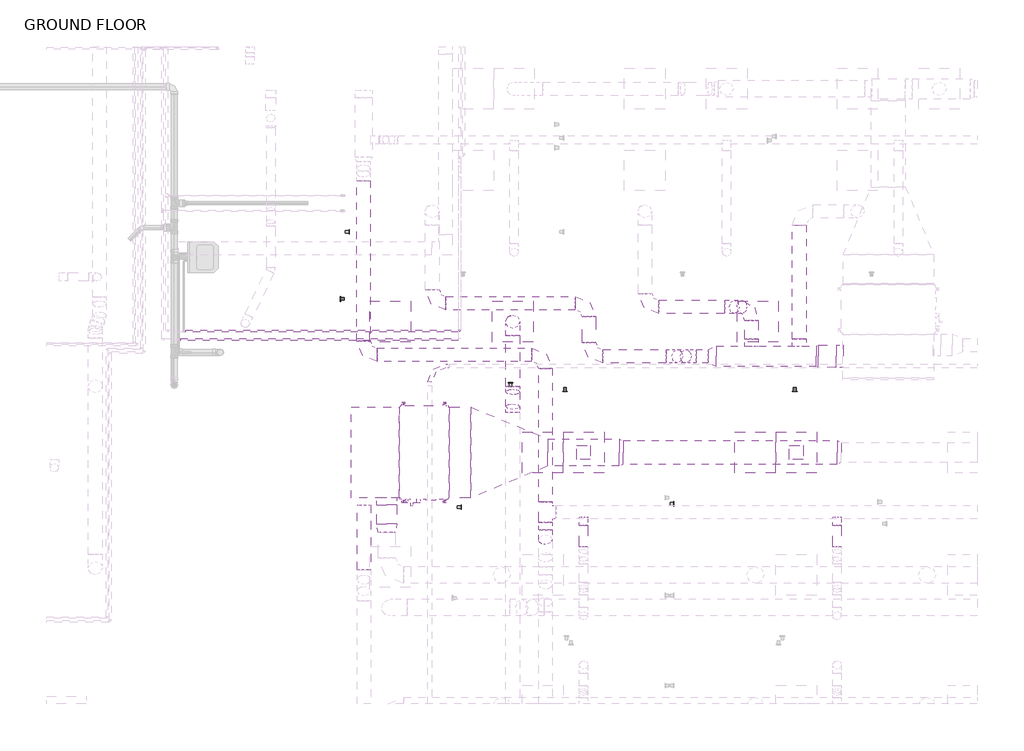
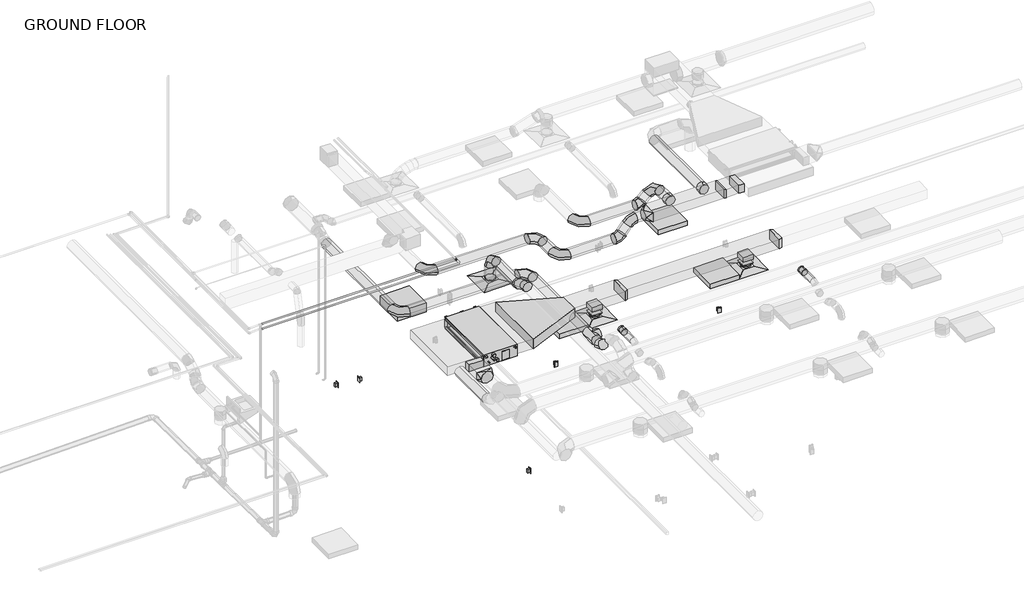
# One storey, part 15 of 22: 31 duct fittings, 28 duct segments, 4 light fixtures, 4 proxies, 3 air terminals, 3 switching devices, 2 pipe segments, 1 cable carrier fitting, 2 other elements.
"""IFC4 building model written with IfcOpenShell, lengths in millimetres."""

from ifc_helpers import new_model, si_unit, point, frame, frame_2d, origin, place, context, project, spatial, polyline, circle_curve, trimmed, segment, composite_curve, outline, extrude, transform, mapped, element, save
from components import air_terminal_e9020785, mechanical_equipment_d478180c, duplex_receptacle_countertop_10251bba, conduit_elbow_plain_end_pvc_standard_9a413171, rectangular_takeoff_standard_68f80ab3, rectangular_takeoff_standard_d07ea574, rectangular_takeoff_standard_fde45e03, rectangular_transition_angle_45_degree_0521c937, rectangular_transition_angle_45_degree_85914557, rectangular_transition_angle_45_degree_791ae252, rectangular_transition_angle_45_degree_a1440fe9, rectangular_to_round_transition_angle_45_degree_5a025447, rectangular_to_round_transition_angle_45_degree_f8b25ec9, rectangular_to_round_transition_angle_45_degree_789dc1ad, round_elbow_1_d_fe38274b, round_elbow_1_d_20ab3410, round_elbow_1_d_a253342a, round_elbow_1_d_ab3aa7ba, round_takeoff_standard_d3b0d0f9, round_takeoff_standard_272bb003, round_tee_standard_4a79b710, telephone_outlet_data_plain_18c24199, troffer_corner_insert_2x2_3_lamp_emergency_29e3a813, troffer_corner_insert_2x2_3lamp_e67c7f8f, elbow_generic_standard_c06ac706

model = new_model("IFC4")

# Units and contexts
model_context = context("Model", 3, world=origin())
ifc_project = project(units=[si_unit("LENGTHUNIT", "METRE", prefix="MILLI")], contexts=[model_context])

# Site, building, storey
site = spatial("IfcSite", under=ifc_project)
building = spatial("IfcBuilding", under=site)
storey = spatial("IfcBuildingStorey", under=building, Name="GROUND FLOOR", Elevation=30480.0)

# Air terminals
placement = place(None, origin())
air_terminal_shape = air_terminal_e9020785(model_context)
element("IfcAirTerminal", 1, ObjectType="Supply Diffuser - Rectangular Face Round Neck - Hosted : 24\"x24\" Face 8\" Neck - Hosted", at=placement, inside=storey, context=model_context, shape_type="MappedRepresentation", body=[
    mapped(air_terminal_shape, transform((-799.1454607, 1382.1195005, 33223.2), x_axis=(0.0, -1.0, 0.0), y_axis=(-1.0, 0.0, 0.0), z_axis=(0.0, 0.0, -1.0))),
])
element("IfcAirTerminal", 2, ObjectType="Supply Diffuser - Rectangular Face Round Neck - Hosted : 24\"x24\" Face 8\" Neck - Hosted", at=placement, inside=storey, context=model_context, shape_type="MappedRepresentation", body=[
    mapped(air_terminal_shape, transform((-3970.9704607, 1382.1195005, 33223.2), x_axis=(0.0, -1.0, 0.0), y_axis=(-1.0, 0.0, 0.0), z_axis=(0.0, 0.0, -1.0))),
])
element("IfcAirTerminal", 3, ObjectType="Supply Diffuser - Rectangular Face Round Neck - Hosted : 24\"x24\" Face 8\" Neck - Hosted", at=placement, inside=storey, context=model_context, shape_type="MappedRepresentation", body=[
    mapped(air_terminal_shape, transform((-5028.2454607, 3334.7445005, 33223.2), x_axis=(0.0, -1.0, 0.0), y_axis=(-1.0, 0.0, 0.0), z_axis=(0.0, 0.0, -1.0))),
])

# Proxies
mechanical_equipment_shape = mechanical_equipment_d478180c(model_context)
element("IfcBuildingElementProxy", 4, Name="PEFY-P-NMAU-E_Medium_Static_Ducted : PEFY-P36NMAU-E", ObjectType="PEFY-P-NMAU-E_Medium_Static_Ducted : PEFY-P36NMAU-E", at=placement, inside=storey, context=model_context, shape_type="MappedRepresentation", body=[
    mapped(mechanical_equipment_shape, transform((-6407.5018914, 1372.1072576, 33458.15), x_axis=(0.0, -1.0, 0.0), y_axis=(1.0, 0.0, 0.0), z_axis=(0.0, 0.0, 1.0))),
])
duplex_receptacle_countertop_shape = duplex_receptacle_countertop_10251bba(model_context)
element("IfcBuildingElementProxy", 5, Name="Duplex Receptacle : Countertop", ObjectType="Duplex Receptacle : Countertop", at=placement, inside=storey, context=model_context, shape_type="MappedRepresentation", body=[
    mapped(duplex_receptacle_countertop_shape, transform((-7469.8204607, 4677.7695005, 30937.2), x_axis=(0.0, 1.0, 0.0), y_axis=(0.0, 0.0, 1.0), z_axis=(1.0, 0.0, 0.0))),
])
element("IfcBuildingElementProxy", 6, Name="Duplex Receptacle : Standard", ObjectType="Duplex Receptacle : Standard", at=placement, inside=storey, context=model_context, shape_type="MappedRepresentation", body=[
    mapped(duplex_receptacle_countertop_shape, transform((-5799.7704607, 567.377149, 30937.2), x_axis=(0.0, 1.0, 0.0), y_axis=(0.0, 0.0, 1.0), z_axis=(1.0, 0.0, 0.0))),
])
element("IfcBuildingElementProxy", 7, Name="Duplex Receptacle : Standard", ObjectType="Duplex Receptacle : Standard", at=placement, inside=storey, context=model_context, shape_type="MappedRepresentation", body=[
    mapped(duplex_receptacle_countertop_shape, transform((-5062.4392218, 2420.3445005, 30937.2), x_axis=(-1.0, 0.0, 0.0), y_axis=(0.0, 0.0, 1.0), z_axis=(0.0, 1.0, 0.0))),
])

# Cable carrier fitting
conduit_elbow_plain_end_pvc_standard_shape = conduit_elbow_plain_end_pvc_standard_9a413171(model_context)
element("IfcCableCarrierFitting", 8, ObjectType="Conduit Elbow - Plain End - PVC : Standard", at=placement, inside=storey, context=model_context, shape_type="MappedRepresentation", body=[
    mapped(conduit_elbow_plain_end_pvc_standard_shape, transform((-6265.5970534, 2674.7111662, 33223.2), x_axis=(-1.0, 0.0, 0.0), y_axis=(0.0, -1.0, 0.0), z_axis=(0.0, 0.0, 1.0))),
])

# Duct fittings
rectangular_takeoff_standard_shape = rectangular_takeoff_standard_68f80ab3(model_context)
element("IfcDuctFitting", 9, ObjectType="Rectangular Takeoff : Standard", at=placement, inside=storey, context=model_context, shape_type="MappedRepresentation", body=[
    mapped(rectangular_takeoff_standard_shape, transform((-101.8689282, 2818.301218, 33947.89375), x_axis=(-1.0, 0.0, 0.0), y_axis=(0.0, 1.0, 0.0), z_axis=(0.0, 0.0, -1.0))),
])
rectangular_takeoff_standard_2_shape = rectangular_takeoff_standard_d07ea574(model_context)
element("IfcDuctFitting", 10, ObjectType="Rectangular Takeoff : Standard", at=placement, inside=storey, context=model_context, shape_type="MappedRepresentation", body=[
    mapped(rectangular_takeoff_standard_2_shape, transform((-799.1454607, 1382.1195005, 33502.6), x_axis=(0.0, 0.0, -1.0), y_axis=(1.0, 0.0, 0.0), z_axis=(0.0, -1.0, 0.0))),
])
element("IfcDuctFitting", 11, ObjectType="Rectangular Takeoff : Standard", at=placement, inside=storey, context=model_context, shape_type="MappedRepresentation", body=[
    mapped(rectangular_takeoff_standard_2_shape, transform((-3970.9704607, 1382.1195005, 33502.6), x_axis=(0.0, 0.0, -1.0), y_axis=(1.0, 0.0, 0.0), z_axis=(0.0, -1.0, 0.0))),
])
rectangular_takeoff_standard_3_shape = rectangular_takeoff_standard_fde45e03(model_context)
element("IfcDuctFitting", 12, ObjectType="Rectangular Takeoff : Standard", at=placement, inside=storey, context=model_context, shape_type="MappedRepresentation", body=[
    mapped(rectangular_takeoff_standard_3_shape, transform((-6907.4143044, 704.2570005, 33617.69375), x_axis=(0.0, -1.0, 0.0), y_axis=(-1.0, 0.0, 0.0), z_axis=(0.0, 0.0, -1.0))),
])
rectangular_transition_angle_45_degree_shape = rectangular_transition_angle_45_degree_0521c937(model_context)
element("IfcDuctFitting", 13, ObjectType="Rectangular Transition - Angle : 45 Degree", at=placement, inside=storey, context=model_context, shape_type="MappedRepresentation", body=[
    mapped(rectangular_transition_angle_45_degree_shape, transform((-471.6175144, 2818.301218, 33947.89375), x_axis=(-1.0, 0.0, 0.0), y_axis=(0.0, -1.0, 0.0), z_axis=(0.0, 0.0, 1.0))),
])
rectangular_transition_angle_45_degree_2_shape = rectangular_transition_angle_45_degree_85914557(model_context)
element("IfcDuctFitting", 14, ObjectType="Rectangular Transition - Angle : 45 Degree", at=placement, inside=storey, context=model_context, shape_type="MappedRepresentation", body=[
    mapped(rectangular_transition_angle_45_degree_2_shape, transform((-5651.3200089, 1382.1195005, 33604.2), x_axis=(1.0, 0.0, 0.0), y_axis=(0.0, 1.0, 0.0), z_axis=(0.0, 0.0, 1.0))),
])
rectangular_transition_angle_45_degree_3_shape = rectangular_transition_angle_45_degree_791ae252(model_context)
element("IfcDuctFitting", 15, ObjectType="Rectangular Transition - Angle : 45 Degree", at=placement, inside=storey, context=model_context, shape_type="MappedRepresentation", body=[
    mapped(rectangular_transition_angle_45_degree_3_shape, transform((-3441.5200089, 1382.1195005, 33604.2), x_axis=(1.0, 0.0, 0.0), y_axis=(0.0, 1.0, 0.0), z_axis=(0.0, 0.0, 1.0))),
])
rectangular_transition_angle_45_degree_4_shape = rectangular_transition_angle_45_degree_a1440fe9(model_context)
element("IfcDuctFitting", 16, ObjectType="Rectangular Transition - Angle : 45 Degree", at=placement, inside=storey, context=model_context, shape_type="MappedRepresentation", body=[
    mapped(rectangular_transition_angle_45_degree_4_shape, transform((-189.5454607, 1382.1195005, 33604.2), x_axis=(1.0, 0.0, 0.0), y_axis=(0.0, 1.0, 0.0), z_axis=(0.0, 0.0, 1.0))),
])
rectangular_to_round_transition_angle_45_degree_shape = rectangular_to_round_transition_angle_45_degree_5a025447(model_context)
element("IfcDuctFitting", 17, ObjectType="Rectangular to Round Transition - Angle : 45 Degree", at=placement, inside=storey, context=model_context, shape_type="MappedRepresentation", body=[
    mapped(rectangular_to_round_transition_angle_45_degree_shape, transform((-799.1454607, 1382.1195005, 33327.975), x_axis=(0.0, 0.0, -1.0), y_axis=(1.0, 0.0, 0.0), z_axis=(0.0, -1.0, 0.0))),
])
element("IfcDuctFitting", 18, ObjectType="Rectangular to Round Transition - Angle : 45 Degree", at=placement, inside=storey, context=model_context, shape_type="MappedRepresentation", body=[
    mapped(rectangular_to_round_transition_angle_45_degree_shape, transform((-3970.9704607, 1382.1195005, 33327.975), x_axis=(0.0, 0.0, -1.0), y_axis=(1.0, 0.0, 0.0), z_axis=(0.0, -1.0, 0.0))),
])
rectangular_to_round_transition_angle_45_degree_2_shape = rectangular_to_round_transition_angle_45_degree_f8b25ec9(model_context)
element("IfcDuctFitting", 19, ObjectType="Rectangular to Round Transition - Angle : 45 Degree", at=placement, inside=storey, context=model_context, shape_type="MappedRepresentation", body=[
    mapped(rectangular_to_round_transition_angle_45_degree_2_shape, transform((-1989.2675144, 2818.301218, 33947.89375), x_axis=(-1.0, 0.0, 0.0), y_axis=(0.0, -1.0, 0.0), z_axis=(0.0, 0.0, 1.0))),
])
rectangular_to_round_transition_angle_45_degree_3_shape = rectangular_to_round_transition_angle_45_degree_789dc1ad(model_context)
element("IfcDuctFitting", 20, ObjectType="Rectangular to Round Transition - Angle : 45 Degree", at=placement, inside=storey, context=model_context, shape_type="MappedRepresentation", body=[
    mapped(rectangular_to_round_transition_angle_45_degree_3_shape, transform((-6907.4143044, 315.3195005, 33617.69375), x_axis=(0.0, -1.0, 0.0), y_axis=(1.0, 0.0, 0.0), z_axis=(0.0, 0.0, 1.0))),
])
round_elbow_1_d_shape = round_elbow_1_d_fe38274b(model_context)
element("IfcDuctFitting", 21, ObjectType="Round Elbow : 1 D", at=placement, inside=storey, context=model_context, shape_type="MappedRepresentation", body=[
    mapped(round_elbow_1_d_shape, transform((-2636.3455027, 2818.301218, 33629.6), x_axis=(1.0, 0.0, 0.0), y_axis=(0.0, 0.0, 1.0), z_axis=(0.0, -1.0, 0.0))),
])
element("IfcDuctFitting", 22, ObjectType="Round Elbow : 1 D", at=placement, inside=storey, context=model_context, shape_type="MappedRepresentation", body=[
    mapped(round_elbow_1_d_shape, transform((-2387.6671708, 2818.301218, 33947.89375), x_axis=(0.6156614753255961, 0.0, 0.7880107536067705), y_axis=(0.7880107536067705, 0.0, -0.6156614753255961), z_axis=(0.0, 1.0, 0.0))),
])
round_elbow_1_d_2_shape = round_elbow_1_d_20ab3410(model_context)
element("IfcDuctFitting", 23, ObjectType="Round Elbow : 1 D", at=placement, inside=storey, context=model_context, shape_type="MappedRepresentation", body=[
    mapped(round_elbow_1_d_2_shape, transform((-5028.2454607, 2325.0945005, 33743.160826), x_axis=(0.0, -1.0, 0.0), y_axis=(0.0, 0.0, 1.0), z_axis=(-1.0, 0.0, 0.0))),
])
element("IfcDuctFitting", 24, ObjectType="Round Elbow : 1 D", at=placement, inside=storey, context=model_context, shape_type="MappedRepresentation", body=[
    mapped(round_elbow_1_d_2_shape, transform((-5028.2454607, 2026.1149962, 33877.25), x_axis=(0.0, -0.9124365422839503, 0.4092182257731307), y_axis=(0.0, -0.4092182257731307, -0.9124365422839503), z_axis=(1.0, 0.0, 0.0))),
])
round_elbow_1_d_3_shape = round_elbow_1_d_a253342a(model_context)
element("IfcDuctFitting", 25, ObjectType="Round Elbow : 1 D", at=placement, inside=storey, context=model_context, shape_type="MappedRepresentation", body=[
    mapped(round_elbow_1_d_3_shape, transform((-5028.2454607, 3334.7445005, 33743.160826), x_axis=(0.0, 0.0, 1.0), y_axis=(0.0, -1.0, 0.0), z_axis=(1.0, 0.0, 0.0))),
])
element("IfcDuctFitting", 26, ObjectType="Round Elbow : 1 D", at=placement, inside=storey, context=model_context, shape_type="MappedRepresentation", body=[
    mapped(round_elbow_1_d_3_shape, transform((-6228.3954607, 3610.9695005, 33629.6), x_axis=(0.0, -1.0, 0.0), y_axis=(1.0, 0.0, 0.0), z_axis=(0.0, 0.0, 1.0))),
])
element("IfcDuctFitting", 27, ObjectType="Round Elbow : 1 D", at=placement, inside=storey, context=model_context, shape_type="MappedRepresentation", body=[
    mapped(round_elbow_1_d_3_shape, transform((-3891.5954607, 3610.9695005, 33629.6), x_axis=(0.0, 1.0, 0.0), y_axis=(-1.0, 0.0, 0.0), z_axis=(0.0, 0.0, 1.0))),
])
element("IfcDuctFitting", 28, ObjectType="Round Elbow : 1 D", at=placement, inside=storey, context=model_context, shape_type="MappedRepresentation", body=[
    mapped(round_elbow_1_d_3_shape, transform((-3891.5954607, 2818.301218, 33629.6), x_axis=(0.0, -1.0, 0.0), y_axis=(1.0, 0.0, 0.0), z_axis=(0.0, 0.0, 1.0))),
])
element("IfcDuctFitting", 29, ObjectType="Round Elbow : 1 D", at=placement, inside=storey, context=model_context, shape_type="MappedRepresentation", body=[
    mapped(round_elbow_1_d_3_shape, transform((-4541.976464, 2841.896647, 33528.0), x_axis=(0.0, 1.0, 0.0), y_axis=(-1.0, 0.0, 0.0), z_axis=(0.0, 0.0, 1.0))),
])
element("IfcDuctFitting", 30, ObjectType="Round Elbow : 1 D", at=placement, inside=storey, context=model_context, shape_type="MappedRepresentation", body=[
    mapped(round_elbow_1_d_3_shape, transform((-7253.9204607, 2841.896647, 33528.0), x_axis=(0.0, -1.0, 0.0), y_axis=(1.0, 0.0, 0.0), z_axis=(0.0, 0.0, 1.0))),
])
element("IfcDuctFitting", 31, ObjectType="Round Elbow : 1 D", at=placement, inside=storey, context=model_context, shape_type="MappedRepresentation", body=[
    mapped(round_elbow_1_d_3_shape, transform((-3056.5704607, 3554.901218, 33629.6), x_axis=(0.0, -1.0, 0.0), y_axis=(1.0, 0.0, 0.0), z_axis=(0.0, 0.0, 1.0))),
])
element("IfcDuctFitting", 32, ObjectType="Round Elbow : 1 D", at=placement, inside=storey, context=model_context, shape_type="MappedRepresentation", body=[
    mapped(round_elbow_1_d_3_shape, transform((-1465.5538665, 3554.901218, 33947.89375), x_axis=(0.7071067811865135, 0.0, 0.7071067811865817), y_axis=(0.0, -1.0000000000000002, 0.0), z_axis=(0.7071067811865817, 0.0, -0.7071067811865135))),
])
round_elbow_1_d_4_shape = round_elbow_1_d_ab3aa7ba(model_context)
element("IfcDuctFitting", 33, ObjectType="Round Elbow : 1 D", at=placement, inside=storey, context=model_context, shape_type="MappedRepresentation", body=[
    mapped(round_elbow_1_d_4_shape, transform((-4541.976464, 139.5450374, 33528.0), x_axis=(0.0, 0.7071067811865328, -0.7071067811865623), y_axis=(0.0, 0.7071067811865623, 0.7071067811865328), z_axis=(1.0, 0.0, 0.0))),
])
element("IfcDuctFitting", 34, ObjectType="Round Elbow : 1 D", at=placement, inside=storey, context=model_context, shape_type="MappedRepresentation", body=[
    mapped(round_elbow_1_d_4_shape, transform((-1783.8476165, 3554.901218, 33629.6), x_axis=(-0.7071067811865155, 0.0, -0.7071067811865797), y_axis=(-0.7071067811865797, 0.0, 0.7071067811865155), z_axis=(0.0, 1.0, 0.0))),
])
round_takeoff_standard_shape = round_takeoff_standard_d3b0d0f9(model_context)
element("IfcDuctFitting", 35, ObjectType="Round Takeoff : Standard", at=placement, inside=storey, context=model_context, shape_type="MappedRepresentation", body=[
    mapped(round_takeoff_standard_shape, transform((-754.6339071, 2970.701218, 33947.89375), x_axis=(0.0, 1.0, 0.0), y_axis=(1.0, 0.0, 0.0), z_axis=(0.0, 0.0, -1.0))),
])
element("IfcDuctFitting", 36, ObjectType="Round Takeoff : Standard", at=placement, inside=storey, context=model_context, shape_type="MappedRepresentation", body=[
    mapped(round_takeoff_standard_shape, transform((-1465.5538665, 2970.701218, 33947.89375), x_axis=(0.0, 1.0, 0.0), y_axis=(1.0, 0.0, 0.0), z_axis=(0.0, 0.0, -1.0))),
])
round_takeoff_standard_2_shape = round_takeoff_standard_272bb003(model_context)
element("IfcDuctFitting", 37, ObjectType="Round Takeoff : Standard", at=placement, inside=storey, context=model_context, shape_type="MappedRepresentation", body=[
    mapped(round_takeoff_standard_2_shape, transform((-3970.9704607, 391.7414929, 33528.0), x_axis=(0.0, -1.0, 0.0), y_axis=(-1.0, 0.0, 0.0), z_axis=(0.0, 0.0, -1.0))),
])
element("IfcDuctFitting", 38, ObjectType="Round Takeoff : Standard", at=placement, inside=storey, context=model_context, shape_type="MappedRepresentation", body=[
    mapped(round_takeoff_standard_2_shape, transform((-189.5454607, 391.7414929, 33528.0), x_axis=(0.0, -1.0, 0.0), y_axis=(-1.0, 0.0, 0.0), z_axis=(0.0, 0.0, -1.0))),
])
round_tee_standard_shape = round_tee_standard_4a79b710(model_context)
element("IfcDuctFitting", 39, ObjectType="Round Tee : Standard", at=placement, inside=storey, context=model_context, shape_type="MappedRepresentation", body=[
    mapped(round_tee_standard_shape, transform((-4541.976464, 493.3414929, 33528.0), x_axis=(0.0, 1.0, 0.0), y_axis=(-1.0, 0.0, 0.0), z_axis=(0.0, 0.0, 1.0))),
])

# Duct segments
element("IfcDuctSegment", 40, ObjectType="Mitered Elbows / Taps", at=placement, inside=storey, context=model_context, shape_type="SweptSolid", body=[
    extrude(outline(polyline([(-6725.0018914, 2059.9820005), (-6725.0018914, 704.2570005), (-7438.8450089, 704.2570005), (-7438.8450089, 2059.9820005), (-6725.0018914, 2059.9820005)])), frame((0.0, 0.0, 33528.0), z_axis=(0.0, 0.0, 1.0), x_axis=(1.0, 0.0, 0.0)), (0.0, 0.0, 1.0), 179.3875),
])
element("IfcDuctSegment", 41, ObjectType="Mitered Elbows / Taps", at=placement, inside=storey, context=model_context, shape_type="SweptSolid", body=[
    extrude(outline(polyline([(-5978.8768914, 704.2570005), (-5978.8768914, 2059.9820005), (-5651.3200089, 2059.9820005), (-5651.3200089, 704.2570005), (-5978.8768914, 704.2570005)])), frame((0.0, 0.0, 33501.0125), z_axis=(0.0, 0.0, 1.0), x_axis=(1.0, 0.0, 0.0)), (0.0, 0.0, 1.0), 206.375),
])
element("IfcDuctSegment", 42, ObjectType="Mitered Elbows / Taps", at=placement, inside=storey, context=model_context, shape_type="SweptSolid", body=[
    extrude(outline(polyline([(-4505.3833638, 1178.9195005), (-4505.3833638, 1585.3195005), (-3441.5200089, 1585.3195005), (-3441.5200089, 1178.9195005), (-4505.3833638, 1178.9195005)])), frame((0.0, 0.0, 33502.6), z_axis=(0.0, 0.0, 1.0), x_axis=(1.0, 0.0, 0.0)), (0.0, 0.0, 1.0), 203.2),
])
element("IfcDuctSegment", 43, ObjectType="Mitered Elbows / Taps", at=placement, inside=storey, context=model_context, shape_type="SweptSolid", body=[
    extrude(outline(polyline([(-3380.1989844, 1204.3195005), (-3380.1989844, 1559.9195005), (-189.5454607, 1559.9195005), (-189.5454607, 1204.3195005), (-3380.1989844, 1204.3195005)])), frame((0.0, 0.0, 33502.6), z_axis=(0.0, 0.0, 1.0), x_axis=(1.0, 0.0, 0.0)), (0.0, 0.0, 1.0), 203.2),
])
element("IfcDuctSegment", 44, ObjectType="Mitered Elbows / Taps", at=placement, inside=storey, context=model_context, shape_type="SweptSolid", body=[
    extrude(outline(polyline([(-900.7454607, 1483.7195005), (-697.5454607, 1483.7195005), (-697.5454607, 1280.5195005), (-900.7454607, 1280.5195005), (-900.7454607, 1483.7195005)])), frame((0.0, 0.0, 33327.975), z_axis=(0.0, 0.0, 1.0), x_axis=(1.0, 0.0, 0.0)), (0.0, 0.0, 1.0), 73.025),
])
element("IfcDuctSegment", 45, ObjectType="Mitered Elbows / Taps", at=placement, inside=storey, context=model_context, shape_type="SweptSolid", body=[
    extrude(outline(polyline([(-4072.5704607, 1483.7195005), (-3869.3704607, 1483.7195005), (-3869.3704607, 1280.5195005), (-4072.5704607, 1280.5195005), (-4072.5704607, 1483.7195005)])), frame((0.0, 0.0, 33327.975), z_axis=(0.0, 0.0, 1.0), x_axis=(1.0, 0.0, 0.0)), (0.0, 0.0, 1.0), 73.025),
])
element("IfcDuctSegment", 46, ObjectType="Mitered Elbows / Taps", at=placement, inside=storey, context=model_context, shape_type="SweptSolid", body=[
    extrude(outline(polyline([(-1989.2675144, 2665.901218), (-1989.2675144, 2970.701218), (-502.2780266, 2970.701218), (-502.2780266, 2665.901218), (-1989.2675144, 2665.901218)])), frame((0.0, 0.0, 33846.29375), z_axis=(0.0, 0.0, 1.0), x_axis=(1.0, 0.0, 0.0)), (0.0, 0.0, 1.0), 203.2),
])
element("IfcDuctSegment", 47, ObjectType="Mitered Elbows / Taps", at=placement, inside=storey, context=model_context, shape_type="SweptSolid", body=[
    extrude(outline(polyline([(-7059.8143044, 602.6570005), (-6755.0143044, 602.6570005), (-6755.0143044, 315.3195005), (-7059.8143044, 315.3195005), (-7059.8143044, 602.6570005)])), frame((0.0, 0.0, 33541.49375), z_axis=(0.0, 0.0, 1.0), x_axis=(1.0, 0.0, 0.0)), (0.0, 0.0, 1.0), 152.4),
])
element("IfcDuctSegment", 48, ObjectType="Mitered Elbows / Taps", at=placement, inside=storey, context=model_context, shape_type="SweptSolid", body=[
    extrude(outline(polyline([(-471.6175144, 2653.201218), (-471.6175144, 2983.401218), (-203.4689282, 2983.401218), (-203.4689282, 2653.201218), (-471.6175144, 2653.201218)])), frame((0.0, 0.0, 33858.99375), z_axis=(0.0, 0.0, 1.0), x_axis=(1.0, 0.0, 0.0)), (0.0, 0.0, 1.0), 177.8),
])
element("IfcDuctSegment", 49, ObjectType="Taps / Short Radius", at=placement, inside=storey, context=model_context, shape_type="SweptSolid", body=[
    extrude(outline(composite_curve([segment(trimmed(circle_curve(frame_2d((-5028.2454607, 3334.7445005)), 101.6), [point((-5129.8454607, 3334.7445005))], [point((-5028.2454607, 3436.3445005))], False, "CARTESIAN"), True, "CONTINUOUS"), segment(trimmed(circle_curve(frame_2d((-5028.2454607, 3334.7445005)), 101.6), [point((-5028.2454607, 3436.3445005))], [point((-4926.6454607, 3334.7445005))], False, "CARTESIAN"), True, "CONTINUOUS"), segment(trimmed(circle_curve(frame_2d((-5028.2454607, 3334.7445005)), 101.6), [point((-4926.6454607, 3334.7445005))], [point((-5028.2454607, 3233.1445005))], False, "CARTESIAN"), True, "CONTINUOUS"), segment(trimmed(circle_curve(frame_2d((-5028.2454607, 3334.7445005)), 101.6), [point((-5028.2454607, 3233.1445005))], [point((-5129.8454607, 3334.7445005))], False, "CARTESIAN"), True, "CONTINUOUS")], self_intersect=False)), frame((0.0, 0.0, 33277.175), z_axis=(0.0, 0.0, 1.0), x_axis=(1.0, 0.0, 0.0)), (0.0, 0.0, 1.0), 262.785826),
])
element("IfcDuctSegment", 50, ObjectType="Taps / Short Radius", at=placement, inside=storey, context=model_context, shape_type="SweptSolid", body=[
    extrude(outline(composite_curve([segment(trimmed(circle_curve(frame_2d((3610.9695005, 33629.6)), 101.6), [point((3509.3695005, 33629.6))], [point((3610.9695005, 33731.2))], False, "CARTESIAN"), True, "CONTINUOUS"), segment(trimmed(circle_curve(frame_2d((3610.9695005, 33629.6)), 101.6), [point((3610.9695005, 33731.2))], [point((3712.5695005, 33629.6))], False, "CARTESIAN"), True, "CONTINUOUS"), segment(trimmed(circle_curve(frame_2d((3610.9695005, 33629.6)), 101.6), [point((3712.5695005, 33629.6))], [point((3610.9695005, 33528.0))], False, "CARTESIAN"), True, "CONTINUOUS"), segment(trimmed(circle_curve(frame_2d((3610.9695005, 33629.6)), 101.6), [point((3610.9695005, 33528.0))], [point((3509.3695005, 33629.6))], False, "CARTESIAN"), True, "CONTINUOUS")], self_intersect=False)), frame((-6025.1954607, 0.0, 0.0), z_axis=(1.0, 0.0, 0.0), x_axis=(0.0, 1.0, 0.0)), (0.0, 0.0, 1.0), 1930.4),
])
element("IfcDuctSegment", 51, ObjectType="Taps / Short Radius", at=placement, inside=storey, context=model_context, shape_type="SweptSolid", body=[
    extrude(outline(composite_curve([segment(trimmed(circle_curve(frame_2d((33629.6, -3891.5954607)), 101.6), [point((33629.6, -3993.1954607))], [point((33528.0, -3891.5954607))], False, "CARTESIAN"), True, "CONTINUOUS"), segment(trimmed(circle_curve(frame_2d((33629.6, -3891.5954607)), 101.6), [point((33528.0, -3891.5954607))], [point((33629.6, -3789.9954607))], False, "CARTESIAN"), True, "CONTINUOUS"), segment(trimmed(circle_curve(frame_2d((33629.6, -3891.5954607)), 101.6), [point((33629.6, -3789.9954607))], [point((33731.2, -3891.5954607))], False, "CARTESIAN"), True, "CONTINUOUS"), segment(trimmed(circle_curve(frame_2d((33629.6, -3891.5954607)), 101.6), [point((33731.2, -3891.5954607))], [point((33629.6, -3993.1954607))], False, "CARTESIAN"), True, "CONTINUOUS")], self_intersect=False)), frame((0.0, 3021.501218, 0.0), z_axis=(0.0, 1.0, 0.0), x_axis=(0.0, 0.0, 1.0)), (0.0, 0.0, 1.0), 386.2682826),
])
element("IfcDuctSegment", 52, ObjectType="Taps / Short Radius", at=placement, inside=storey, context=model_context, shape_type="SweptSolid", body=[
    extrude(outline(composite_curve([segment(trimmed(circle_curve(frame_2d((33947.89375, -754.6339071)), 101.6), [point((33947.89375, -856.2339071))], [point((33846.29375, -754.6339071))], False, "CARTESIAN"), True, "CONTINUOUS"), segment(trimmed(circle_curve(frame_2d((33947.89375, -754.6339071)), 101.6), [point((33846.29375, -754.6339071))], [point((33947.89375, -653.0339071))], False, "CARTESIAN"), True, "CONTINUOUS"), segment(trimmed(circle_curve(frame_2d((33947.89375, -754.6339071)), 101.6), [point((33947.89375, -653.0339071))], [point((34049.49375, -754.6339071))], False, "CARTESIAN"), True, "CONTINUOUS"), segment(trimmed(circle_curve(frame_2d((33947.89375, -754.6339071)), 101.6), [point((34049.49375, -754.6339071))], [point((33947.89375, -856.2339071))], False, "CARTESIAN"), True, "CONTINUOUS")], self_intersect=False)), frame((0.0, 3072.301218, 0.0), z_axis=(0.0, 1.0, 0.0), x_axis=(0.0, 0.0, 1.0)), (0.0, 0.0, 1.0), 1707.0682826),
])
element("IfcDuctSegment", 53, ObjectType="Taps / Short Radius", at=placement, inside=storey, context=model_context, shape_type="SweptSolid", body=[
    extrude(outline(composite_curve([segment(trimmed(circle_curve(frame_2d((33617.69375, -7247.6134283)), 101.6), [point((33617.69375, -7349.2134283))], [point((33516.09375, -7247.6134283))], False, "CARTESIAN"), True, "CONTINUOUS"), segment(trimmed(circle_curve(frame_2d((33617.69375, -7247.6134283)), 101.6), [point((33516.09375, -7247.6134283))], [point((33617.69375, -7146.0134283))], False, "CARTESIAN"), True, "CONTINUOUS"), segment(trimmed(circle_curve(frame_2d((33617.69375, -7247.6134283)), 101.6), [point((33617.69375, -7146.0134283))], [point((33719.29375, -7247.6134283))], False, "CARTESIAN"), True, "CONTINUOUS"), segment(trimmed(circle_curve(frame_2d((33617.69375, -7247.6134283)), 101.6), [point((33719.29375, -7247.6134283))], [point((33617.69375, -7349.2134283))], False, "CARTESIAN"), True, "CONTINUOUS")], self_intersect=False)), frame((0.0, -372.4290959, 0.0), z_axis=(0.0, 1.0, 0.0), x_axis=(0.0, 0.0, 1.0)), (0.0, 0.0, 1.0), 975.0860964),
])
element("IfcDuctSegment", 54, ObjectType="Taps / Short Radius", at=placement, inside=storey, context=model_context, shape_type="SweptSolid", body=[
    extrude(outline(composite_curve([segment(trimmed(circle_curve(frame_2d((33528.0, -4541.976464)), 101.6), [point((33528.0, -4440.376464))], [point((33629.6, -4541.976464))], False, "CARTESIAN"), True, "CONTINUOUS"), segment(trimmed(circle_curve(frame_2d((33528.0, -4541.976464)), 101.6), [point((33629.6, -4541.976464))], [point((33528.0, -4643.576464))], False, "CARTESIAN"), True, "CONTINUOUS"), segment(trimmed(circle_curve(frame_2d((33528.0, -4541.976464)), 101.6), [point((33528.0, -4643.576464))], [point((33426.4, -4541.976464))], False, "CARTESIAN"), True, "CONTINUOUS"), segment(trimmed(circle_curve(frame_2d((33528.0, -4541.976464)), 101.6), [point((33426.4, -4541.976464))], [point((33528.0, -4440.376464))], False, "CARTESIAN"), True, "CONTINUOUS")], self_intersect=False)), frame((0.0, 645.7414929, 0.0), z_axis=(0.0, 1.0, 0.0), x_axis=(0.0, 0.0, 1.0)), (0.0, 0.0, 1.0), 1992.955154),
])
element("IfcDuctSegment", 55, ObjectType="Taps / Short Radius", at=placement, inside=storey, context=model_context, shape_type="SweptSolid", body=[
    extrude(outline(composite_curve([segment(trimmed(circle_curve(frame_2d((2841.896647, 33528.0)), 101.6), [point((2943.496647, 33528.0))], [point((2841.896647, 33426.4))], False, "CARTESIAN"), True, "CONTINUOUS"), segment(trimmed(circle_curve(frame_2d((2841.896647, 33528.0)), 101.6), [point((2841.896647, 33426.4))], [point((2740.296647, 33528.0))], False, "CARTESIAN"), True, "CONTINUOUS"), segment(trimmed(circle_curve(frame_2d((2841.896647, 33528.0)), 101.6), [point((2740.296647, 33528.0))], [point((2841.896647, 33629.6))], False, "CARTESIAN"), True, "CONTINUOUS"), segment(trimmed(circle_curve(frame_2d((2841.896647, 33528.0)), 101.6), [point((2841.896647, 33629.6))], [point((2943.496647, 33528.0))], False, "CARTESIAN"), True, "CONTINUOUS")], self_intersect=False)), frame((-7050.7204607, 0.0, 0.0), z_axis=(1.0, 0.0, 0.0), x_axis=(0.0, 1.0, 0.0)), (0.0, 0.0, 1.0), 2305.5439967),
])
element("IfcDuctSegment", 56, ObjectType="Taps / Short Radius", at=placement, inside=storey, context=model_context, shape_type="SweptSolid", body=[
    extrude(outline(composite_curve([segment(trimmed(circle_curve(frame_2d((33528.0, -7253.9204607)), 101.6), [point((33528.0, -7355.5204607))], [point((33426.4, -7253.9204607))], False, "CARTESIAN"), True, "CONTINUOUS"), segment(trimmed(circle_curve(frame_2d((33528.0, -7253.9204607)), 101.6), [point((33426.4, -7253.9204607))], [point((33528.0, -7152.3204607))], False, "CARTESIAN"), True, "CONTINUOUS"), segment(trimmed(circle_curve(frame_2d((33528.0, -7253.9204607)), 101.6), [point((33528.0, -7152.3204607))], [point((33629.6, -7253.9204607))], False, "CARTESIAN"), True, "CONTINUOUS"), segment(trimmed(circle_curve(frame_2d((33528.0, -7253.9204607)), 101.6), [point((33629.6, -7253.9204607))], [point((33528.0, -7355.5204607))], False, "CARTESIAN"), True, "CONTINUOUS")], self_intersect=False)), frame((0.0, 3045.096647, 0.0), z_axis=(0.0, 1.0, 0.0), x_axis=(0.0, 0.0, 1.0)), (0.0, 0.0, 1.0), 2396.604045),
])
element("IfcDuctSegment", 57, ObjectType="Taps / Short Radius", at=placement, inside=storey, context=model_context, shape_type="SweptSolid", body=[
    extrude(outline(composite_curve([segment(trimmed(circle_curve(frame_2d((33528.0, -3970.9704607)), 63.5), [point((33528.0, -3907.4704607))], [point((33591.5, -3970.9704607))], False, "CARTESIAN"), True, "CONTINUOUS"), segment(trimmed(circle_curve(frame_2d((33528.0, -3970.9704607)), 63.5), [point((33591.5, -3970.9704607))], [point((33528.0, -4034.4704607))], False, "CARTESIAN"), True, "CONTINUOUS"), segment(trimmed(circle_curve(frame_2d((33528.0, -3970.9704607)), 63.5), [point((33528.0, -4034.4704607))], [point((33464.5, -3970.9704607))], False, "CARTESIAN"), True, "CONTINUOUS"), segment(trimmed(circle_curve(frame_2d((33528.0, -3970.9704607)), 63.5), [point((33464.5, -3970.9704607))], [point((33528.0, -3907.4704607))], False, "CARTESIAN"), True, "CONTINUOUS")], self_intersect=False)), frame((0.0, -23.6803249, 0.0), z_axis=(0.0, 1.0, 0.0), x_axis=(0.0, 0.0, 1.0)), (0.0, 0.0, 1.0), 313.8218179),
])
element("IfcDuctSegment", 58, ObjectType="Taps / Short Radius", at=placement, inside=storey, context=model_context, shape_type="SweptSolid", body=[
    extrude(outline(composite_curve([segment(trimmed(circle_curve(frame_2d((33528.0, -4541.976464)), 101.6), [point((33528.0, -4440.376464))], [point((33629.6, -4541.976464))], False, "CARTESIAN"), True, "CONTINUOUS"), segment(trimmed(circle_curve(frame_2d((33528.0, -4541.976464)), 101.6), [point((33629.6, -4541.976464))], [point((33528.0, -4643.576464))], False, "CARTESIAN"), True, "CONTINUOUS"), segment(trimmed(circle_curve(frame_2d((33528.0, -4541.976464)), 101.6), [point((33528.0, -4643.576464))], [point((33426.4, -4541.976464))], False, "CARTESIAN"), True, "CONTINUOUS"), segment(trimmed(circle_curve(frame_2d((33528.0, -4541.976464)), 101.6), [point((33426.4, -4541.976464))], [point((33528.0, -4440.376464))], False, "CARTESIAN"), True, "CONTINUOUS")], self_intersect=False)), frame((0.0, 223.7132333, 0.0), z_axis=(0.0, 1.0, 0.0), x_axis=(0.0, 0.0, 1.0)), (0.0, 0.0, 1.0), 117.2282596),
])
element("IfcDuctSegment", 59, ObjectType="Taps / Short Radius", at=placement, inside=storey, context=model_context, shape_type="SweptSolid", body=[
    extrude(outline(composite_curve([segment(trimmed(circle_curve(frame_2d((33528.0, -189.5454607)), 63.5), [point((33528.0, -126.0454607))], [point((33591.5, -189.5454607))], False, "CARTESIAN"), True, "CONTINUOUS"), segment(trimmed(circle_curve(frame_2d((33528.0, -189.5454607)), 63.5), [point((33591.5, -189.5454607))], [point((33528.0, -253.0454607))], False, "CARTESIAN"), True, "CONTINUOUS"), segment(trimmed(circle_curve(frame_2d((33528.0, -189.5454607)), 63.5), [point((33528.0, -253.0454607))], [point((33464.5, -189.5454607))], False, "CARTESIAN"), True, "CONTINUOUS"), segment(trimmed(circle_curve(frame_2d((33528.0, -189.5454607)), 63.5), [point((33464.5, -189.5454607))], [point((33528.0, -126.0454607))], False, "CARTESIAN"), True, "CONTINUOUS")], self_intersect=False)), frame((0.0, -23.6803249, 0.0), z_axis=(0.0, 1.0, 0.0), x_axis=(0.0, 0.0, 1.0)), (0.0, 0.0, 1.0), 313.8218179),
])
element("IfcDuctSegment", 60, ObjectType="Taps / Short Radius", at=placement, inside=storey, context=model_context, shape_type="SweptSolid", body=[
    extrude(outline(composite_curve([segment(trimmed(circle_curve(frame_2d((2818.301218, 33629.6)), 101.6), [point((2716.701218, 33629.6))], [point((2818.301218, 33731.2))], False, "CARTESIAN"), True, "CONTINUOUS"), segment(trimmed(circle_curve(frame_2d((2818.301218, 33629.6)), 101.6), [point((2818.301218, 33731.2))], [point((2919.901218, 33629.6))], False, "CARTESIAN"), True, "CONTINUOUS"), segment(trimmed(circle_curve(frame_2d((2818.301218, 33629.6)), 101.6), [point((2919.901218, 33629.6))], [point((2818.301218, 33528.0))], False, "CARTESIAN"), True, "CONTINUOUS"), segment(trimmed(circle_curve(frame_2d((2818.301218, 33629.6)), 101.6), [point((2818.301218, 33528.0))], [point((2716.701218, 33629.6))], False, "CARTESIAN"), True, "CONTINUOUS")], self_intersect=False)), frame((-3688.3954607, 0.0, 0.0), z_axis=(1.0, 0.0, 0.0), x_axis=(0.0, 1.0, 0.0)), (0.0, 0.0, 1.0), 952.942696),
])
element("IfcDuctSegment", 61, ObjectType="Taps / Short Radius", at=placement, inside=storey, context=model_context, shape_type="SweptSolid", body=[
    extrude(outline(composite_curve([segment(trimmed(circle_curve(frame_2d((0.0, 101.6)), 101.6), [point((0.0, 0.0))], [point((-101.6, 101.6))], False, "CARTESIAN"), True, "CONTINUOUS"), segment(trimmed(circle_curve(frame_2d((0.0, 101.6)), 101.6), [point((-101.6, 101.6))], [point((0.0, 203.2))], False, "CARTESIAN"), True, "CONTINUOUS"), segment(trimmed(circle_curve(frame_2d((0.0, 101.6)), 101.6), [point((0.0, 203.2))], [point((101.6, 101.6))], False, "CARTESIAN"), True, "CONTINUOUS"), segment(trimmed(circle_curve(frame_2d((0.0, 101.6)), 101.6), [point((101.6, 101.6))], [point((0.0, 0.0))], False, "CARTESIAN"), True, "CONTINUOUS")], self_intersect=False)), frame((-2575.3289795, 2716.701218, 33707.6975882), z_axis=(0.6156614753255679, 0.0, 0.7880107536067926), x_axis=(0.7880107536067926, 0.0, -0.6156614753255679)), (0.0, 0.0, 1.0), 205.7060425),
])
element("IfcDuctSegment", 62, ObjectType="Taps / Short Radius", at=placement, inside=storey, context=model_context, shape_type="SweptSolid", body=[
    extrude(outline(composite_curve([segment(trimmed(circle_curve(frame_2d((2818.301218, 33947.89375)), 101.6), [point((2919.901218, 33947.89375))], [point((2818.301218, 33846.29375))], False, "CARTESIAN"), True, "CONTINUOUS"), segment(trimmed(circle_curve(frame_2d((2818.301218, 33947.89375)), 101.6), [point((2818.301218, 33846.29375))], [point((2716.701218, 33947.89375))], False, "CARTESIAN"), True, "CONTINUOUS"), segment(trimmed(circle_curve(frame_2d((2818.301218, 33947.89375)), 101.6), [point((2716.701218, 33947.89375))], [point((2818.301218, 34049.49375))], False, "CARTESIAN"), True, "CONTINUOUS"), segment(trimmed(circle_curve(frame_2d((2818.301218, 33947.89375)), 101.6), [point((2818.301218, 34049.49375))], [point((2919.901218, 33947.89375))], False, "CARTESIAN"), True, "CONTINUOUS")], self_intersect=False)), frame((-2288.5599088, 0.0, 0.0), z_axis=(1.0, 0.0, 0.0), x_axis=(0.0, 1.0, 0.0)), (0.0, 0.0, 1.0), 176.6503454),
])
element("IfcDuctSegment", 63, ObjectType="Taps / Short Radius", at=placement, inside=storey, context=model_context, shape_type="SweptSolid", body=[
    extrude(outline(composite_curve([segment(trimmed(circle_curve(frame_2d((33947.89375, -1465.5538665)), 101.6), [point((33947.89375, -1567.1538665))], [point((33846.29375, -1465.5538665))], False, "CARTESIAN"), True, "CONTINUOUS"), segment(trimmed(circle_curve(frame_2d((33947.89375, -1465.5538665)), 101.6), [point((33846.29375, -1465.5538665))], [point((33947.89375, -1363.9538665))], False, "CARTESIAN"), True, "CONTINUOUS"), segment(trimmed(circle_curve(frame_2d((33947.89375, -1465.5538665)), 101.6), [point((33947.89375, -1363.9538665))], [point((34049.49375, -1465.5538665))], False, "CARTESIAN"), True, "CONTINUOUS"), segment(trimmed(circle_curve(frame_2d((33947.89375, -1465.5538665)), 101.6), [point((34049.49375, -1465.5538665))], [point((33947.89375, -1567.1538665))], False, "CARTESIAN"), True, "CONTINUOUS")], self_intersect=False)), frame((0.0, 3072.301218, 0.0), z_axis=(0.0, 1.0, 0.0), x_axis=(0.0, 0.0, 1.0)), (0.0, 0.0, 1.0), 279.4),
])
element("IfcDuctSegment", 64, ObjectType="Taps / Short Radius", at=placement, inside=storey, context=model_context, shape_type="SweptSolid", body=[
    extrude(outline(composite_curve([segment(trimmed(circle_curve(frame_2d((0.0, -101.6)), 101.6), [point((0.0, 0.0))], [point((101.6, -101.6))], False, "CARTESIAN"), True, "CONTINUOUS"), segment(trimmed(circle_curve(frame_2d((0.0, -101.6)), 101.6), [point((101.6, -101.6))], [point((0.0, -203.2))], False, "CARTESIAN"), True, "CONTINUOUS"), segment(trimmed(circle_curve(frame_2d((0.0, -101.6)), 101.6), [point((0.0, -203.2))], [point((-101.6, -101.6))], False, "CARTESIAN"), True, "CONTINUOUS"), segment(trimmed(circle_curve(frame_2d((0.0, -101.6)), 101.6), [point((-101.6, -101.6))], [point((0.0, 0.0))], False, "CARTESIAN"), True, "CONTINUOUS")], self_intersect=False)), frame((-1724.3317144, 3656.501218, 33689.1159021), z_axis=(0.7071067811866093, 0.0, 0.7071067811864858), x_axis=(0.7071067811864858, 0.0, -0.7071067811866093)), (0.0, 0.0, 1.0), 162.7671422),
])
element("IfcDuctSegment", 65, ObjectType="Taps / Short Radius", at=placement, inside=storey, context=model_context, shape_type="SweptSolid", body=[
    extrude(outline(composite_curve([segment(trimmed(circle_curve(frame_2d((3554.901218, 33629.6)), 101.6), [point((3453.301218, 33629.6))], [point((3554.901218, 33731.2))], False, "CARTESIAN"), True, "CONTINUOUS"), segment(trimmed(circle_curve(frame_2d((3554.901218, 33629.6)), 101.6), [point((3554.901218, 33731.2))], [point((3656.501218, 33629.6))], False, "CARTESIAN"), True, "CONTINUOUS"), segment(trimmed(circle_curve(frame_2d((3554.901218, 33629.6)), 101.6), [point((3656.501218, 33629.6))], [point((3554.901218, 33528.0))], False, "CARTESIAN"), True, "CONTINUOUS"), segment(trimmed(circle_curve(frame_2d((3554.901218, 33629.6)), 101.6), [point((3554.901218, 33528.0))], [point((3453.301218, 33629.6))], False, "CARTESIAN"), True, "CONTINUOUS")], self_intersect=False)), frame((-2853.3704607, 0.0, 0.0), z_axis=(1.0, 0.0, 0.0), x_axis=(0.0, 1.0, 0.0)), (0.0, 0.0, 1.0), 985.3546483),
])
element("IfcDuctSegment", 66, ObjectType="Taps / Short Radius", at=placement, inside=storey, context=model_context, shape_type="SweptSolid", body=[
    extrude(outline(composite_curve([segment(trimmed(circle_curve(frame_2d((33743.160826, -5028.2454607)), 101.6), [point((33743.160826, -5129.8454607))], [point((33641.560826, -5028.2454607))], False, "CARTESIAN"), True, "CONTINUOUS"), segment(trimmed(circle_curve(frame_2d((33743.160826, -5028.2454607)), 101.6), [point((33641.560826, -5028.2454607))], [point((33743.160826, -4926.6454607))], False, "CARTESIAN"), True, "CONTINUOUS"), segment(trimmed(circle_curve(frame_2d((33743.160826, -5028.2454607)), 101.6), [point((33743.160826, -4926.6454607))], [point((33844.760826, -5028.2454607))], False, "CARTESIAN"), True, "CONTINUOUS"), segment(trimmed(circle_curve(frame_2d((33743.160826, -5028.2454607)), 101.6), [point((33844.760826, -5028.2454607))], [point((33743.160826, -5129.8454607))], False, "CARTESIAN"), True, "CONTINUOUS")], self_intersect=False)), frame((0.0, 2368.574711, 0.0), z_axis=(0.0, 1.0, 0.0), x_axis=(0.0, 0.0, 1.0)), (0.0, 0.0, 1.0), 762.9697895),
])
element("IfcDuctSegment", 67, ObjectType="Taps / Short Radius", at=placement, inside=storey, context=model_context, shape_type="SweptSolid", body=[
    extrude(outline(composite_curve([segment(trimmed(circle_curve(frame_2d((0.0, -101.6)), 101.6), [point((101.6, -101.6))], [point((0.0, -203.2))], False, "CARTESIAN"), True, "CONTINUOUS"), segment(trimmed(circle_curve(frame_2d((0.0, -101.6)), 101.6), [point((0.0, -203.2))], [point((-101.6, -101.6))], False, "CARTESIAN"), True, "CONTINUOUS"), segment(trimmed(circle_curve(frame_2d((0.0, -101.6)), 101.6), [point((-101.6, -101.6))], [point((0.0, 0.0))], False, "CARTESIAN"), True, "CONTINUOUS"), segment(trimmed(circle_curve(frame_2d((0.0, -101.6)), 101.6), [point((0.0, 0.0))], [point((101.6, -101.6))], False, "CARTESIAN"), True, "CONTINUOUS")], self_intersect=False)), frame((-5028.2454607, 2326.9981393, 33853.6572733), z_axis=(0.0, -0.9124365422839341, 0.40921822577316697), x_axis=(1.0, 0.0, 0.0)), (0.0, 0.0, 1.0), 240.711138),
])

# Electric appliance
telephone_outlet_data_plain_shape = telephone_outlet_data_plain_18c24199(model_context)
element("IfcElectricAppliance", 68, ObjectType="Telephone Outlet - Data : Plain", at=placement, inside=storey, context=model_context, shape_type="MappedRepresentation", body=[
    mapped(telephone_outlet_data_plain_shape, transform((-2627.9454607, 1493.7836097, 30079.95), x_axis=(0.0, 1.0, 0.0), y_axis=(0.0, 0.0, 1.0), z_axis=(1.0, 0.0, 0.0))),
])

# Light fixtures
troffer_corner_insert_2x2_3_lamp_emergency_shape = troffer_corner_insert_2x2_3_lamp_emergency_29e3a813(model_context)
element("IfcLightFixture", 69, ObjectType="Troffer Corner Insert : 2x2 3 Lamp Emergency", at=placement, inside=storey, context=model_context, shape_type="MappedRepresentation", body=[
    mapped(troffer_corner_insert_2x2_3_lamp_emergency_shape, transform((-6857.0454607, 3334.7445005, 30784.8), x_axis=(1.0, 0.0, 0.0), y_axis=(0.0, 1.0, 0.0), z_axis=(0.0, 0.0, 1.0))),
])
troffer_corner_insert_2x2_3lamp_shape = troffer_corner_insert_2x2_3lamp_e67c7f8f(model_context)
element("IfcLightFixture", 70, ObjectType="Troffer Corner Insert : 2x2 3Lamp", at=placement, inside=storey, context=model_context, shape_type="MappedRepresentation", body=[
    mapped(troffer_corner_insert_2x2_3lamp_shape, transform((-1370.6454607, 3334.7445005, 30784.8), x_axis=(1.0, 0.0, 0.0), y_axis=(0.0, 1.0, 0.0), z_axis=(0.0, 0.0, 1.0))),
])
element("IfcLightFixture", 71, ObjectType="Troffer Corner Insert : 2x2 3Lamp", at=placement, inside=storey, context=model_context, shape_type="MappedRepresentation", body=[
    mapped(troffer_corner_insert_2x2_3lamp_shape, transform((-1408.7454607, 1382.1195005, 30784.8), x_axis=(1.0, 0.0, 0.0), y_axis=(0.0, 1.0, 0.0), z_axis=(0.0, 0.0, 1.0))),
])
element("IfcLightFixture", 72, ObjectType="Troffer Corner Insert : 2x2 3Lamp", at=placement, inside=storey, context=model_context, shape_type="MappedRepresentation", body=[
    mapped(troffer_corner_insert_2x2_3lamp_shape, transform((-4580.5704607, 1382.1195005, 30784.8), x_axis=(1.0, 0.0, 0.0), y_axis=(0.0, 1.0, 0.0), z_axis=(0.0, 0.0, 1.0))),
])

# Pipe fitting
elbow_generic_standard_shape = elbow_generic_standard_c06ac706(model_context)
element("IfcPipeFitting", 73, ObjectType="Elbow - Generic : Standard", at=placement, inside=storey, context=model_context, shape_type="MappedRepresentation", body=[
    mapped(elbow_generic_standard_shape, transform((-5818.8204607, 3193.0718518, 34023.2981384), x_axis=(1.0, 0.0, 0.0), y_axis=(0.0, 1.0, 0.0), z_axis=(0.0, 0.0, 1.0))),
])

# Pipe segments
element("IfcPipeSegment", 74, ObjectType="Copper Tubing", at=placement, inside=storey, context=model_context, shape_type="SweptSolid", body=[
    extrude(outline(composite_curve([segment(trimmed(circle_curve(frame_2d((3066.0718518, 34023.3)), 14.2875), [point((3080.3593518, 34023.3))], [point((3066.0718518, 34009.0125))], False, "CARTESIAN"), True, "CONTINUOUS"), segment(trimmed(circle_curve(frame_2d((3066.0718518, 34023.3)), 14.2875), [point((3066.0718518, 34009.0125))], [point((3051.7843518, 34023.3))], False, "CARTESIAN"), True, "CONTINUOUS"), segment(trimmed(circle_curve(frame_2d((3066.0718518, 34023.3)), 14.2875), [point((3051.7843518, 34023.3))], [point((3066.0718518, 34037.5875))], False, "CARTESIAN"), True, "CONTINUOUS"), segment(trimmed(circle_curve(frame_2d((3066.0718518, 34023.3)), 14.2875), [point((3066.0718518, 34037.5875))], [point((3080.3593518, 34023.3))], False, "CARTESIAN"), True, "CONTINUOUS")], self_intersect=False)), frame((-9982.8329607, 0.0, 0.0), z_axis=(1.0, 0.0, 0.0), x_axis=(0.0, 1.0, 0.0)), (0.0, 0.0, 1.0), 4143.375),
])
element("IfcPipeSegment", 75, ObjectType="Copper Tubing", at=placement, inside=storey, context=model_context, shape_type="SweptSolid", body=[
    extrude(outline(composite_curve([segment(trimmed(circle_curve(frame_2d((3193.0718518, 34023.2981384)), 14.2875), [point((3207.3593518, 34023.2981384))], [point((3193.0718518, 34009.0106384))], False, "CARTESIAN"), True, "CONTINUOUS"), segment(trimmed(circle_curve(frame_2d((3193.0718518, 34023.2981384)), 14.2875), [point((3193.0718518, 34009.0106384))], [point((3178.7843518, 34023.2981384))], False, "CARTESIAN"), True, "CONTINUOUS"), segment(trimmed(circle_curve(frame_2d((3193.0718518, 34023.2981384)), 14.2875), [point((3178.7843518, 34023.2981384))], [point((3193.0718518, 34037.5856384))], False, "CARTESIAN"), True, "CONTINUOUS"), segment(trimmed(circle_curve(frame_2d((3193.0718518, 34023.2981384)), 14.2875), [point((3193.0718518, 34037.5856384))], [point((3207.3593518, 34023.2981384))], False, "CARTESIAN"), True, "CONTINUOUS")], self_intersect=False)), frame((-9906.6329607, 0.0, 0.0), z_axis=(1.0, 0.0, 0.0), x_axis=(0.0, 1.0, 0.0)), (0.0, 0.0, 1.0), 4067.175),
])

# Switching devices
element("IfcSwitchingDevice", 76, ObjectType="Lighting Switches - Occupancy Sensor : Occupancy Sensor", at=placement, inside=storey, context=model_context, shape_type="MappedRepresentation", body=[
    mapped(duplex_receptacle_countertop_shape, transform((-4246.5281981, 2296.5195005, 31699.2), x_axis=(1.0, 0.0, 0.0), y_axis=(0.0, 0.0, 1.0), z_axis=(0.0, -1.0, 0.0))),
])
element("IfcSwitchingDevice", 77, ObjectType="Lighting Switches - Occupancy Sensor : Occupancy Sensor", at=placement, inside=storey, context=model_context, shape_type="MappedRepresentation", body=[
    mapped(duplex_receptacle_countertop_shape, transform((-820.9421916, 2296.5195005, 31699.2), x_axis=(1.0, 0.0, 0.0), y_axis=(0.0, 0.0, 1.0), z_axis=(0.0, -1.0, 0.0))),
])
element("IfcSwitchingDevice", 78, ObjectType="Lighting Switches : Single Pole", at=placement, inside=storey, context=model_context, shape_type="MappedRepresentation", body=[
    mapped(duplex_receptacle_countertop_shape, transform((-7593.6454607, 3673.2673583, 31699.2), x_axis=(0.0, -1.0, 0.0), y_axis=(0.0, 0.0, 1.0), z_axis=(-1.0, 0.0, 0.0))),
])

save(model, "model.ifc")
